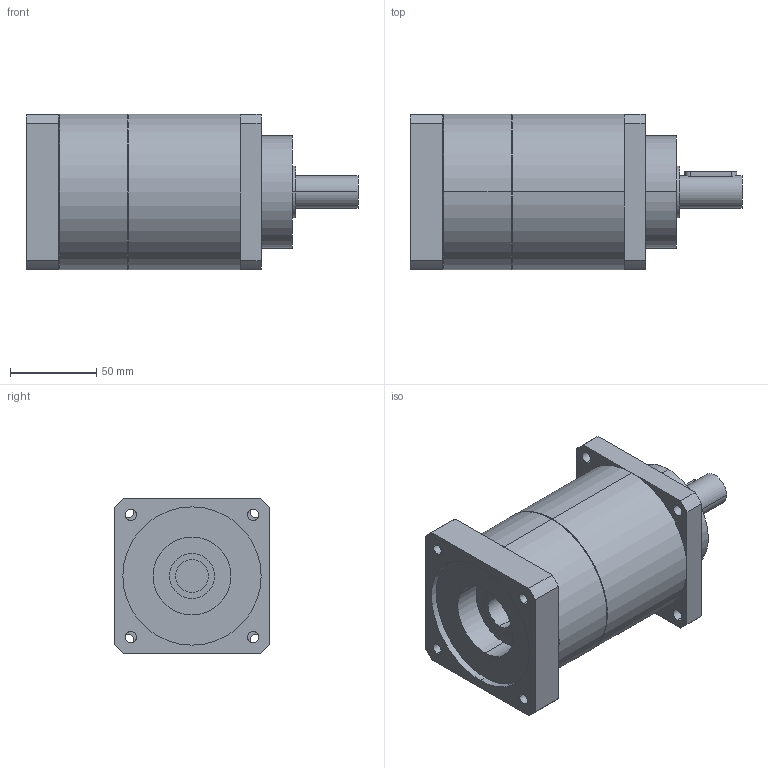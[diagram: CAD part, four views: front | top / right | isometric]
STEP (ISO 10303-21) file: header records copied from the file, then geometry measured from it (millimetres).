
FILE_DESCRIPTION(('CoCreate Modeling STEP Export'),'2;1');
FILE_NAME('GPT90_ig-9-12-16-20-25-28-35-40-50-70-100_19_B5T_19_P34.stp','2015-02-04T11:33:20',(''),(''),'CoCreate Modeling STEP processor for AP214 (Solid Model)','CoCreate Modeling 16.00C 25-Feb-2009 (C) Parametric Technology GmbH','');
FILE_SCHEMA(('AUTOMOTIVE_DESIGN { 1 0 10303 214 1 1 1 1 }'));
Length unit declared in the file: millimetre
Products named in the file (2): GPT90_ig-9-12-16-20-25-28-35-40-50-70-100_19_B5T_19_P34
Assembly tree (1 placements, depth 2):
  GPT90_ig-9-12-16-20-25-28-35-40-50-70-100_19_B5T_19_P34
    GPT90_ig-9-12-16-20-25-28-35-40-50-70-100_19_B5T_19_P34
Bounding box: 192 x 90 x 90 mm (x, y, z)
Volume: 932025.7 mm3; surface area: 74319.8 mm2
Topology: 1 solids, 1 shells, 77 faces, 206 edges, 141 vertices
Faces by surface type: cylinder 46, plane 27, cone 4
Entity records: 2596 total; most frequent: CARTESIAN_POINT 742, ORIENTED_EDGE 412, DIRECTION 324, EDGE_CURVE 206, VERTEX_POINT 141, AXIS2_PLACEMENT_3D 120, EDGE_LOOP 103, VECTOR 84
